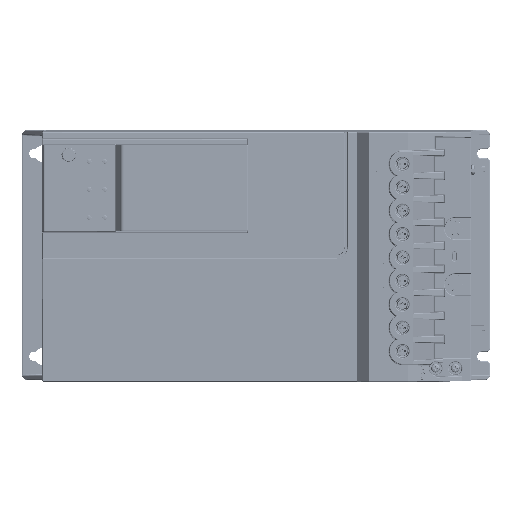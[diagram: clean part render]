
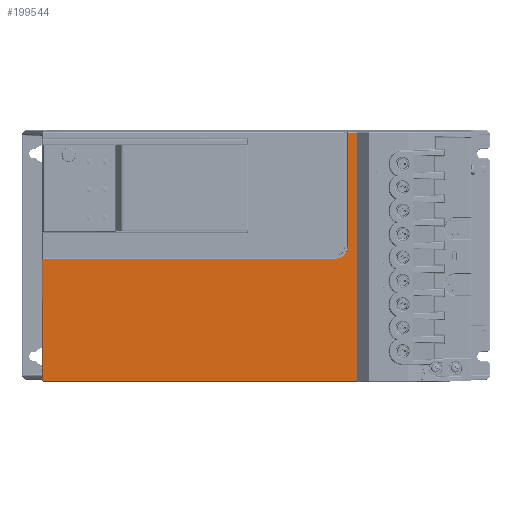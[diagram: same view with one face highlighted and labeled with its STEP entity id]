
A CAD part, left-side view. The second image highlights one B-rep face of the part: STEP entity #199544.
In plain terms, the highlighted planar face has unit normal (-1, 0, -0.008) as drawn and (0, 0, 1) by its records, which use the part's own axes.
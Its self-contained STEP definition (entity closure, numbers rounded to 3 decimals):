
#153365=DIRECTION('',(-1.,0.,0.));
#153366=VECTOR('',#153365,78.47);
#153367=CARTESIAN_POINT('',(-1.03,137.,
156.3));
#153368=LINE('',#153367,#153366);
#153384=CARTESIAN_POINT('',(6.19,-51.2,156.3));
#153385=DIRECTION('',(0.,0.,1.));
#153386=DIRECTION('',(-1.,0.,0.));
#153387=AXIS2_PLACEMENT_3D('',#153384,#153385,#153386);
#153389=DIRECTION('',(1.,0.,0.));
#153390=VECTOR('',#153389,73.31);
#153391=CARTESIAN_POINT('',(6.19,-58.42,156.3));
#153392=LINE('',#153391,#153390);
#153393=DIRECTION('',(-1.,0.,0.));
#153394=VECTOR('',#153393,159.);
#153395=CARTESIAN_POINT('',(79.5,-63.993,156.3));
#153396=LINE('',#153395,#153394);
#153397=DIRECTION('',(0.,-1.,0.));
#153398=VECTOR('',#153397,200.993);
#153399=CARTESIAN_POINT('',(-79.5,137.,156.3));
#153400=LINE('',#153399,#153398);
#153409=DIRECTION('',(0.,1.,0.));
#153410=VECTOR('',#153409,188.2);
#153411=CARTESIAN_POINT('',(-1.03,-51.2,156.3));
#153412=LINE('',#153411,#153410);
#172227=DIRECTION('',(0.,1.,0.));
#172228=VECTOR('',#172227,5.573);
#172229=CARTESIAN_POINT('',(79.5,-63.993,156.3));
#172230=LINE('',#172229,#172228);
#189959=CARTESIAN_POINT('',(-1.03,-51.2,156.3));
#189960=CARTESIAN_POINT('',(6.19,-58.42,156.3));
#189961=VERTEX_POINT('',#189959);
#189962=VERTEX_POINT('',#189960);
#189963=CARTESIAN_POINT('',(-79.5,137.,156.3));
#189964=CARTESIAN_POINT('',(-79.5,-63.993,156.3));
#189965=VERTEX_POINT('',#189963);
#189966=VERTEX_POINT('',#189964);
#189967=CARTESIAN_POINT('',(-1.03,137.,
156.3));
#189968=VERTEX_POINT('',#189967);
#189969=CARTESIAN_POINT('',(79.5,-58.42,
156.3));
#189970=VERTEX_POINT('',#189969);
#189971=CARTESIAN_POINT('',(79.5,-63.993,156.3));
#189972=VERTEX_POINT('',#189971);
#199525=CARTESIAN_POINT('',(0.,0.,156.3));
#199526=DIRECTION('',(0.,0.,1.));
#199527=DIRECTION('',(1.,0.,0.));
#199528=AXIS2_PLACEMENT_3D('',#199525,#199526,#199527);
#199529=PLANE('',#199528);
#199531=ORIENTED_EDGE('',*,*,#199530,.F.);
#199532=ORIENTED_EDGE('',*,*,#199515,.F.);
#199534=ORIENTED_EDGE('',*,*,#199533,.F.);
#199536=ORIENTED_EDGE('',*,*,#199535,.T.);
#199538=ORIENTED_EDGE('',*,*,#199537,.T.);
#199540=ORIENTED_EDGE('',*,*,#199539,.F.);
#199541=ORIENTED_EDGE('',*,*,#199411,.T.);
#199542=EDGE_LOOP('',(#199531,#199532,#199534,#199536,#199538,#199540,#199541));
#199543=FACE_OUTER_BOUND('',#199542,.F.);
#199544=ADVANCED_FACE('',(#199543),#199529,.T.);
#153388=CIRCLE('',#153387,7.22);
#199411=EDGE_CURVE('',#189972,#189966,#153396,.T.);
#199515=EDGE_CURVE('',#189968,#189965,#153368,.T.);
#199530=EDGE_CURVE('',#189965,#189966,#153400,.T.);
#199533=EDGE_CURVE('',#189961,#189968,#153412,.T.);
#199535=EDGE_CURVE('',#189961,#189962,#153388,.T.);
#199537=EDGE_CURVE('',#189962,#189970,#153392,.T.);
#199539=EDGE_CURVE('',#189972,#189970,#172230,.T.);
